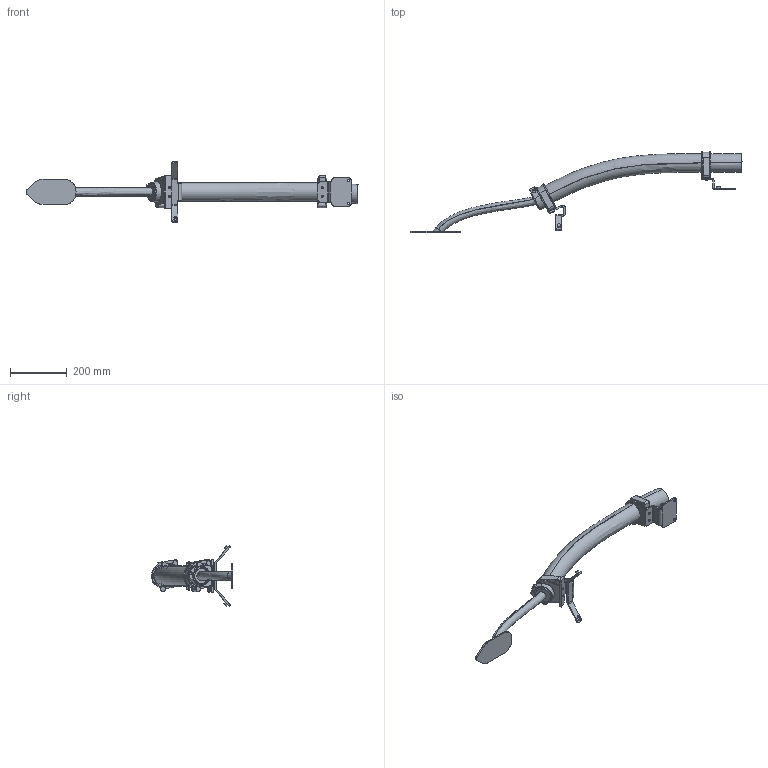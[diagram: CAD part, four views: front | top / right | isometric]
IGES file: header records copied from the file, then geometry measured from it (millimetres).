
Start section: SolidWorks IGES file using analytic representation for surfaces
Global section: file name: C:\Users\SEJAOLS6\OneDrive - ABB\Documents\SAP\7720\7720_Lightweight_models\IRB7720-MH3_530kg-310_OC_01_SW_J\IRB7710-MH3_530kg-310_OC_01_IGES_J\IRB7720-MH3_All-310_OC_00_LINK04_CABLE.igs; native system: SolidWorks 2024; preprocessor: SolidWorks 2024; author: SEJAOLS6; date: 260127.082942; units: millimetre
Bounding box: 1168 x 286.45 x 214.13 mm (x, y, z)
Surface area: 324924.8 mm2 (no closed solid volume)
Topology: 0 solids, 0 shells, 316 faces, 4775 edges, 4775 vertices
Faces by surface type: bspline 204, revolution 112
